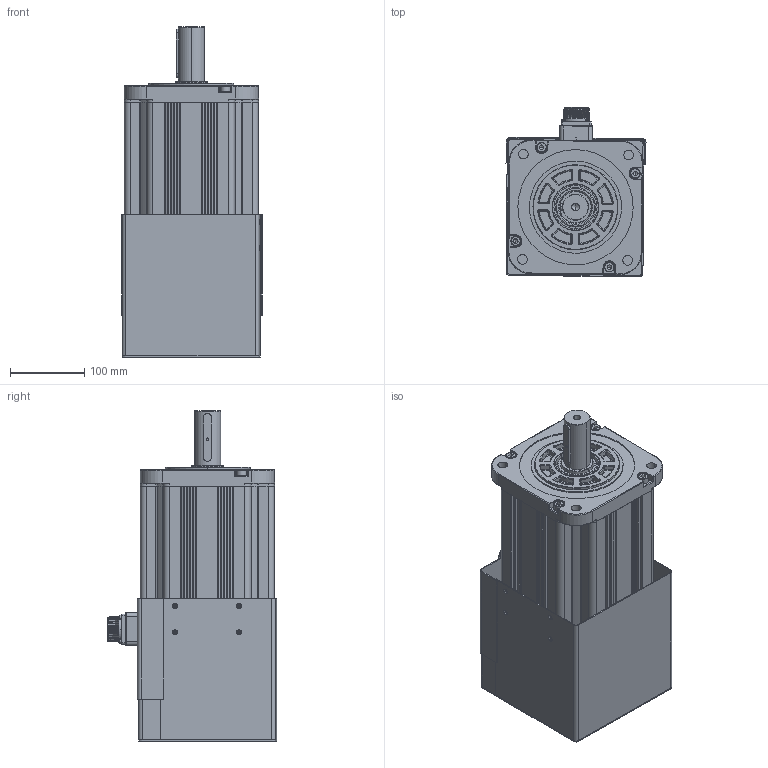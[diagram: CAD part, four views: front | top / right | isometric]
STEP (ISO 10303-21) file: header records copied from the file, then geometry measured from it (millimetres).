
FILE_DESCRIPTION (( 'STEP AP214' ), '1' );
FILE_NAME ('V7E-M18D-7R515-D1F.STEP', '2022-01-07T01:05:13', ( '' ), ( '' ), 'SwSTEP 2.0', 'SolidWorks 2014', '' );
FILE_SCHEMA (( 'AUTOMOTIVE_DESIGN' ));
Length unit declared in the file: millimetre
Products named in the file (21): E18B107F2-C1; 坋趼攫芛蹟佪 M2X8-8  H type-N; E18B107F2-C3; SC180ヶ傷裔1009; SC蚐猾 D00B999YF8-TC 44-62-10; SC晤鎢ん欶200908_10郋; 蚾饜极4; 180#陔隅赽201019; SCSC瑤諾脣芛 16M-9H; 180粣-47沺郋_1; 180#綴傷裔; SCCMS3102A22-22P-Z; SC180瑤脣釱1015; V7E-M18D-7R515-D1F; E18B107F2-C4; 埴芛囀鞠褒 ISO 4762 M3 x 10 --- 10N; 180儂褲1009; 埴芛囀鞠褒 ISO 4762 M8 x 30 --- 30N; 埴芛囀鞠褒 ISO 4762 M3 x 30 --- 18N; E18B107F2-C2; す瑩^180#陔萇儂-拸价陬 201021_1
Assembly tree (36 placements, depth 3):
  V7E-M18D-7R515-D1F
    SC晤鎢ん欶200908_10郋
    SCSC瑤諾脣芛 16M-9H
    SC蚐猾 D00B999YF8-TC 44-62-10
    坋趼攫芛蹟佪 M2X8-8  H type-N  x4
    埴芛囀鞠褒 ISO 4762 M3 x 10 --- 10N  x4
    埴芛囀鞠褒 ISO 4762 M8 x 30 --- 30N  x8
    埴芛囀鞠褒 ISO 4762 M3 x 30 --- 18N  x4
    180#綴傷裔
    180#陔隅赽201019
      SC180ヶ傷裔1009
      SCCMS3102A22-22P-Z
      SC180瑤脣釱1015
      180儂褲1009
    180粣-47沺郋_1
    す瑩^180#陔萇儂-拸价陬 201021_1
    蚾饜极4
      E18B107F2-C1
      E18B107F2-C2
      E18B107F2-C3
    E18B107F2-C4
Bounding box: 188.27 x 227.55 x 444 mm (x, y, z)
Volume: 2567731.3 mm3; surface area: 946651.8 mm2
Topology: 34 solids, 34 shells, 3269 faces, 8059 edges, 4753 vertices
Faces by surface type: cylinder 1087, bspline 994, plane 805, cone 319, torus 64
Entity records: 147143 total; most frequent: CARTESIAN_POINT 55492, ORIENTED_EDGE 13750, DIRECTION 11718, EDGE_CURVE 6875, AXIS2_PLACEMENT_3D 4708, VERTEX_POINT 4166, EDGE_LOOP 3093, ADVANCED_FACE 2846
